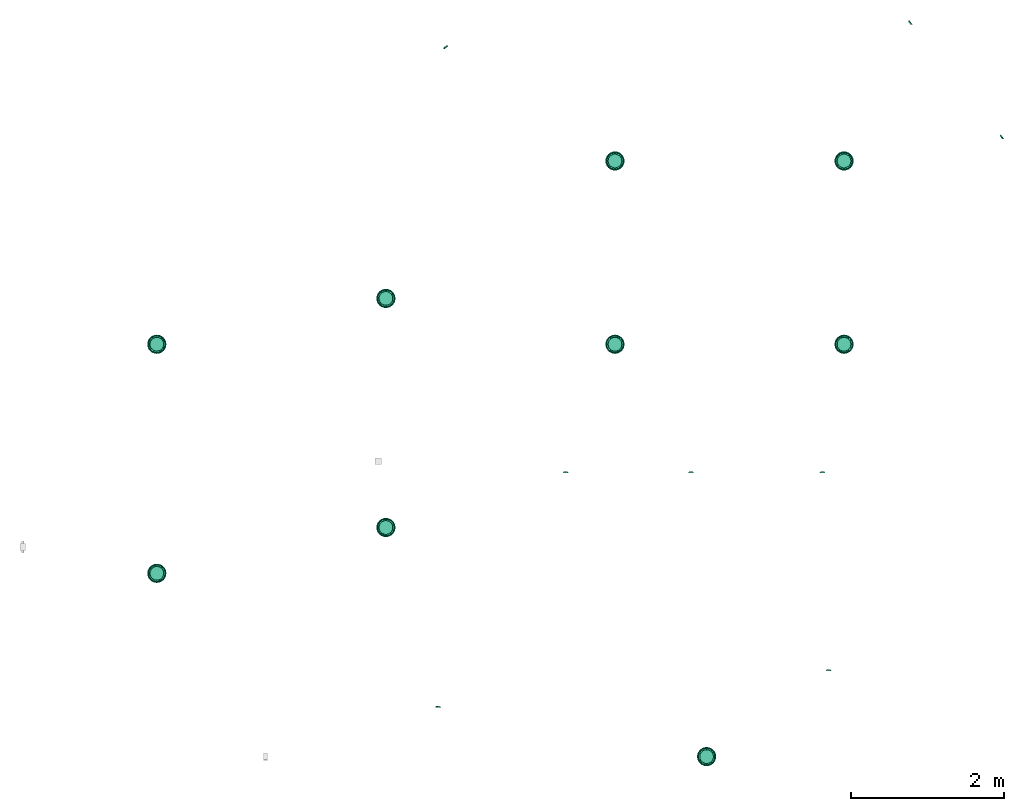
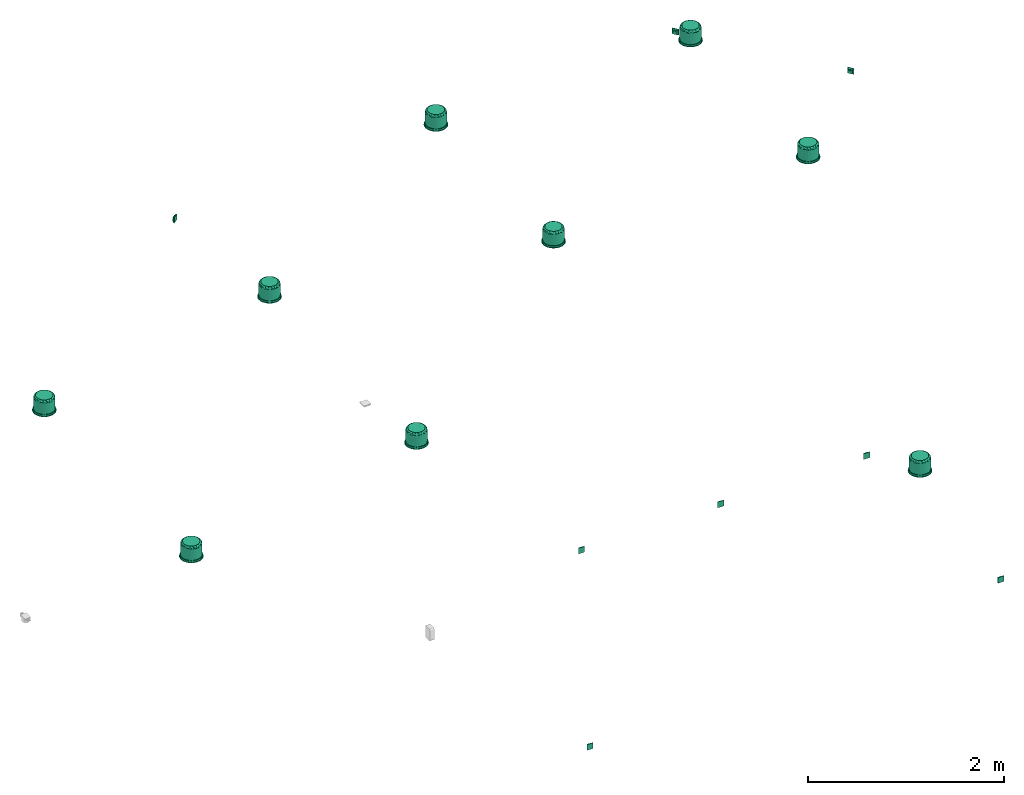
# One storey, part 1 of 3: 17 flow terminals.
"""IFC2X3 building model written with IfcOpenShell, lengths in millimetres."""

import ifcopenshell
import ifcopenshell.guid

model = None  # the IFC model being written
_history = None  # IfcOwnerHistory: only IFC2X3 demands one
_inside = {}  # id of a spatial element -> (the spatial element, [elements in it])
_under = {}  # id of a project, library or spatial element -> (it, [spatial elements below it])
_declared = {}  # id of a project -> (the project, [libraries it declares])
_typed = {}  # id of a type object -> (the type object, [elements of that type])
_made_of = {}  # id of a material, layer set ... -> (it, [elements and type objects made of it])


def new_model(schema):
    """Start an empty IFC model of exactly this schema.

    Asked for "IFC4X3", IfcOpenShell would pick the latest addendum, in which some entities
    have other attributes; the version numbers below select the first issue.
    IFC2X3 requires an IfcOwnerHistory on every rooted entity: one is made here for all.
    """
    global model, _history
    if schema == "IFC4X3":
        model = ifcopenshell.file(schema_version=(4, 3, 0, 0))
    else:
        model = ifcopenshell.file(schema=schema)
    _inside.clear()
    _under.clear()
    _declared.clear()
    _typed.clear()
    _made_of.clear()
    _history = None
    if model.schema == "IFC2X3":
        org = make("IfcOrganization", Name="unknown")
        user = make(
            "IfcPersonAndOrganization",
            ThePerson=make("IfcPerson", FamilyName="unknown"),
            TheOrganization=org,
        )
        app = make(
            "IfcApplication",
            ApplicationDeveloper=org,
            Version="unknown",
            ApplicationFullName="unknown",
            ApplicationIdentifier="unknown",
        )
        _history = make(
            "IfcOwnerHistory",
            OwningUser=user,
            OwningApplication=app,
            ChangeAction="ADDED",
            CreationDate=0,
        )
    return model


def make(cls, **values):
    """One entity of the class cls with the attributes given. An attribute that is None is left unset."""
    return model.create_entity(
        cls, **{name: value for name, value in values.items() if value is not None}
    )


def entity(cls, *values):
    """Any entity or typed value of the class cls, its attributes in the order of the schema. None: left unset."""
    e = model.create_entity(cls)
    for i, value in enumerate(values):
        if value is not None:
            e[i] = value
    return e


def rooted(cls, **values):
    """An entity with a GlobalId (a new one), such as an element, a storey or a relation."""
    return make(cls, GlobalId=ifcopenshell.guid.new(), OwnerHistory=_history, **values)


def si_unit(unit_type, name, prefix=None):
    """IfcSIUnit, for example si_unit("LENGTHUNIT", "METRE", prefix="MILLI")."""
    return make("IfcSIUnit", UnitType=unit_type, Prefix=prefix, Name=name)


def converted_unit(unit_type, name, factor, base, dimensions=None, offset=None):
    """IfcConversionBasedUnit, such as the inch: factor (a typed value) times the base unit."""
    return make(
        "IfcConversionBasedUnit"
        if offset is None
        else "IfcConversionBasedUnitWithOffset",
        ConversionOffset=offset,
        Dimensions=None
        if dimensions is None
        else entity("IfcDimensionalExponents", *dimensions),
        UnitType=unit_type,
        Name=name,
        ConversionFactor=make(
            "IfcMeasureWithUnit", ValueComponent=factor, UnitComponent=base
        ),
    )


def derived_unit(unit_type, elements):
    """IfcDerivedUnit: a product of units, each with its exponent."""
    return make(
        "IfcDerivedUnit",
        Elements=[
            make("IfcDerivedUnitElement", Unit=unit, Exponent=power)
            for unit, power in elements
        ],
        UnitType=unit_type,
    )


def assignment(units):
    """IfcUnitAssignment: the units of a project."""
    return None if units is None else make("IfcUnitAssignment", Units=units)


def point(xyz):
    """IfcCartesianPoint."""
    return None if xyz is None else make("IfcCartesianPoint", Coordinates=xyz)


def direction(xyz):
    """IfcDirection."""
    return None if xyz is None else make("IfcDirection", DirectionRatios=xyz)


def frame(location, z_axis=None, x_axis=None):
    """IfcAxis2Placement3D, a coordinate frame: its origin and axes. An axis left out is left unset."""
    return make(
        "IfcAxis2Placement3D",
        Location=point(location),
        Axis=direction(z_axis),
        RefDirection=direction(x_axis),
    )


def origin_with_axes():
    """The frame at (0, 0, 0) with the z axis (0, 0, 1) and the x axis (1, 0, 0) written out."""
    return frame((0.0, 0.0, 0.0), z_axis=(0.0, 0.0, 1.0), x_axis=(1.0, 0.0, 0.0))


def place(relative_to, where):
    """IfcLocalPlacement: puts the frame where relative to a parent placement (None: the world)."""
    return make(
        "IfcLocalPlacement", PlacementRelTo=relative_to, RelativePlacement=where
    )


def context(
    kind, dimensions, precision=None, world=None, true_north=None, identifier=None
):
    """IfcGeometricRepresentationContext, for example the 3D "Model" context."""
    return make(
        "IfcGeometricRepresentationContext",
        ContextIdentifier=identifier,
        ContextType=kind,
        CoordinateSpaceDimension=dimensions,
        Precision=precision,
        WorldCoordinateSystem=world,
        TrueNorth=true_north,
    )


def subcontext(parent, identifier, kind, view, scale=None):
    """IfcGeometricRepresentationSubContext, for example "Body" below "Model"."""
    return make(
        "IfcGeometricRepresentationSubContext",
        ContextIdentifier=identifier,
        ContextType=kind,
        ParentContext=parent,
        TargetScale=scale,
        TargetView=view,
    )


def project(units=None, contexts=None):
    """IfcProject with its units and contexts."""
    return rooted(
        "IfcProject",
        Name="project",
        RepresentationContexts=contexts,
        UnitsInContext=assignment(units),
    )


def spatial(cls, under=None, at=None, **own):
    """A site, building, storey or space (cls), placed at a placement, below another one or the project."""
    s = rooted(cls, ObjectPlacement=at, **own)
    if under is not None:
        _under.setdefault(under.id(), (under, []))[1].append(s)
    return s


def faces_of(points, faces, orient=None, outer=None):
    """IfcFace entities. A face is a list of loops; a loop is a list of indices into points, from 0.

    orient and outer hold one flag for each loop. By default every Orientation is true, the
    first loop of a face is its IfcFaceOuterBound and the others are IfcFaceBound.
    """
    made = []
    for i, loops in enumerate(faces):
        bounds = []
        for j, loop in enumerate(loops):
            is_outer = j == 0 if outer is None else outer[i][j]
            bounds.append(
                make(
                    "IfcFaceOuterBound" if is_outer else "IfcFaceBound",
                    Bound=make("IfcPolyLoop", Polygon=[points[k] for k in loop]),
                    Orientation=True if orient is None else orient[i][j],
                )
            )
        made.append(make("IfcFace", Bounds=bounds))
    return made


def open_shell(faces, orient=None, outer=None):
    """The faces of one IfcOpenShell. surface_model builds it on its shared points."""
    return ("IfcOpenShell", faces, orient, outer)


def surface_model(cls, points, shells):
    """IfcFaceBasedSurfaceModel or IfcShellBasedSurfaceModel (cls): surfaces that need not close."""
    shared = [point(p) for p in points]
    made = [make(c, CfsFaces=faces_of(shared, fs, o, b)) for c, fs, o, b in shells]
    if cls == "IfcFaceBasedSurfaceModel":
        return make(cls, FbsmFaces=made)
    return make(cls, SbsmBoundary=made)


def shape(context_of_items, identifier, shape_type, items):
    """IfcShapeRepresentation: the items that make up one representation, for example the "Body"."""
    return make(
        "IfcShapeRepresentation",
        ContextOfItems=context_of_items,
        RepresentationIdentifier=identifier,
        RepresentationType=shape_type,
        Items=items,
    )


def source(mapping_origin, context_of_items, identifier, shape_type, items):
    """IfcRepresentationMap: a shape defined once, which mapped items show again and again."""
    return make(
        "IfcRepresentationMap",
        MappingOrigin=mapping_origin,
        MappedRepresentation=shape(context_of_items, identifier, shape_type, items),
    )


def transform(
    local_origin,
    x_axis=None,
    y_axis=None,
    z_axis=None,
    scale=None,
    scale2=None,
    scale3=None,
    uniform=True,
):
    """IfcCartesianTransformationOperator3D, or its non-uniform kind. x_axis, y_axis, z_axis: its Axis1, 2, 3."""
    if uniform:
        return make(
            "IfcCartesianTransformationOperator3D",
            Axis1=direction(x_axis),
            Axis2=direction(y_axis),
            LocalOrigin=point(local_origin),
            Scale=scale,
            Axis3=direction(z_axis),
        )
    return make(
        "IfcCartesianTransformationOperator3DnonUniform",
        Axis1=direction(x_axis),
        Axis2=direction(y_axis),
        LocalOrigin=point(local_origin),
        Scale=scale,
        Axis3=direction(z_axis),
        Scale2=scale2,
        Scale3=scale3,
    )


def mapped(mapping_source, mapping_target):
    """IfcMappedItem: shows the shape of a source again, moved by a transform."""
    return make(
        "IfcMappedItem", MappingSource=mapping_source, MappingTarget=mapping_target
    )


def made_of(thing, what):
    """Note that an element or type object is made of a material, layer set ...; save() writes the relation."""
    if what is not None:
        _made_of.setdefault(what.id(), (what, []))[1].append(thing)
    return thing


def type_object(cls, material=None, **own):
    """A type object (cls), such as IfcWallType, which elements share."""
    return made_of(rooted(cls, **own), material)


def element(
    cls,
    number,
    at=None,
    inside=None,
    cuts=None,
    type_object=None,
    material=None,
    context=None,
    identifier="Body",
    shape_type=None,
    held_by="IfcProductDefinitionShape",
    body=None,
    shapes=None,
    **own,
):
    """One element of the class cls, such as IfcWall. Its Tag is "e" and its number.

    at: its placement. inside: the storey or other place that contains it. cuts: it is an
    opening in that element (IfcRelVoidsElement). A single representation is given by context,
    identifier, shape_type and body (its items); several are given by shapes. held_by: the class
    of the entity that holds the representations. save() writes the other relations.
    """
    e = rooted(cls, Tag="e%d" % number, ObjectPlacement=at, **own)
    if body is not None:
        shapes = [shape(context, identifier, shape_type, body)]
    if shapes is not None:
        e.Representation = make(held_by, Representations=shapes)
    if inside is not None:
        _inside.setdefault(inside.id(), (inside, []))[1].append(e)
    if cuts is not None:
        rooted(
            "IfcRelVoidsElement", RelatingBuildingElement=cuts, RelatedOpeningElement=e
        )
    if type_object is not None:
        _typed.setdefault(type_object.id(), (type_object, []))[1].append(e)
    return made_of(e, material)


def aggregate(whole, parts):
    """IfcRelAggregates: a whole, such as a stair, and the parts it consists of."""
    return rooted("IfcRelAggregates", RelatingObject=whole, RelatedObjects=parts)


def save(model, path):
    """Write the relations noted so far, then the file.

    IfcRelAggregates (storeys below a building ...), IfcRelContainedInSpatialStructure (elements
    in a storey), IfcRelDefinesByType, IfcRelAssociatesMaterial and IfcRelDeclares: one each for
    every whole, place, type object, material and project.
    """
    for whole, parts in _under.values():
        aggregate(whole, parts)
    for where, things in _inside.values():
        rooted(
            "IfcRelContainedInSpatialStructure",
            RelatedElements=things,
            RelatingStructure=where,
        )
    for kind, things in _typed.values():
        rooted("IfcRelDefinesByType", RelatedObjects=things, RelatingType=kind)
    for what, things in _made_of.values():
        rooted("IfcRelAssociatesMaterial", RelatedObjects=things, RelatingMaterial=what)
    for by, libraries in _declared.values():
        rooted("IfcRelDeclares", RelatingContext=by, RelatedDefinitions=libraries)
    model.write(path)


model = new_model("IFC2X3")

# Units and contexts
model_context = context("Model", 3, precision=0.01, world=frame((0.0, 4.29681676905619e-09, 0.0)), true_north=direction((4.01073788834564e-13, 1.0)))
plan_context = context("Plan", 3, precision=0.01, world=frame((0.0, 4.29681676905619e-09, 0.0)), true_north=direction((4.01073788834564e-13, 1.0)))
body_context = subcontext(model_context, "Body", "Model", "MODEL_VIEW")
ifc_project = project(units=[converted_unit("PLANEANGLEUNIT", "DEGREE", entity("IfcPositiveLengthMeasure", 0.0174532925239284), si_unit("PLANEANGLEUNIT", "RADIAN"), dimensions=[0, 0, 0, 0, 0, 0, 0]), si_unit("AREAUNIT", "SQUARE_METRE"), si_unit("LENGTHUNIT", "METRE", prefix="MILLI"), si_unit("MASSUNIT", "GRAM", prefix="KILO"), si_unit("POWERUNIT", "WATT"), si_unit("PRESSUREUNIT", "PASCAL", prefix="KILO"), si_unit("FORCEUNIT", "NEWTON", prefix="KILO"), si_unit("ELECTRICVOLTAGEUNIT", "VOLT"), si_unit("ELECTRICCURRENTUNIT", "AMPERE"), si_unit("THERMODYNAMICTEMPERATUREUNIT", "DEGREE_CELSIUS"), si_unit("TIMEUNIT", "SECOND"), si_unit("VOLUMEUNIT", "CUBIC_METRE"), derived_unit("LINEARVELOCITYUNIT", [(si_unit("LENGTHUNIT", "METRE"), 1), (si_unit("TIMEUNIT", "SECOND"), -1)]), derived_unit("VOLUMETRICFLOWRATEUNIT", [(si_unit("VOLUMEUNIT", "CUBIC_METRE"), 1), (si_unit("TIMEUNIT", "SECOND"), -1)]), derived_unit("THERMALTRANSMITTANCEUNIT", [(si_unit("POWERUNIT", "WATT"), 1), (si_unit("THERMODYNAMICTEMPERATUREUNIT", "KELVIN"), -1), (si_unit("AREAUNIT", "SQUARE_METRE"), -1)]), derived_unit("SOUNDPRESSUREUNIT", [(si_unit("PRESSUREUNIT", "PASCAL"), 1)])], contexts=[model_context, plan_context])

# Site, building, storey
site_placement = place(None, frame((0.0, -4.29681676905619e-09, 0.0), z_axis=(0.0, 0.0, 1.0), x_axis=(1.0, 0.0, 0.0)))
site = spatial("IfcSite", under=ifc_project, at=site_placement, Name="ENGM", CompositionType="ELEMENT")
building_placement = place(site_placement, frame((0.0, 4.29681676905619e-09, 0.0), z_axis=(0.0, 0.0, 1.0), x_axis=(1.0, 0.0, 0.0)))
building = spatial("IfcBuilding", under=site, at=building_placement, Name="TS", CompositionType="ELEMENT")
storey_placement = place(building_placement, frame((0.0, 0.0, 210900.0), z_axis=(0.0, 0.0, 1.0), x_axis=(1.0, 0.0, 0.0)))
storey = spatial("IfcBuildingStorey", under=building, at=storey_placement, Name="Nivå F", CompositionType="ELEMENT", Elevation=210900.0)

# Flow terminals
outlet_type = type_object("IfcOutletType", Name="Datauttak dobbel Vegg - IKT", PredefinedType="COMMUNICATIONSOUTLET")
shared_shape_1 = source(origin_with_axes(), body_context, "Body", "SurfaceModel", [
    surface_model("IfcShellBasedSurfaceModel", [(35.5, 5.05547, 35.5832), (25.5, 20.05547, 25.5832), (-35.5, 5.05547, 35.5832), (-25.5, 20.05547, 25.5832), (-35.5, 4.94453, 35.41679), (-25.5, 19.94453, 25.41679), (25.5, 19.94453, 25.41679), (35.5, 4.94453, 35.41679), (35.5, 4.94453, -35.41679), (25.5, 19.94453, -25.41679), (-35.5, 4.94453, -35.41679), (-25.5, 19.94453, -25.41679), (-35.5, 5.05547, -35.5832), (-25.5, 20.05547, -25.5832), (25.5, 20.05547, -25.5832), (35.5, 5.05547, -35.5832), (-25.5832, 20.05547, -25.5), (-35.5832, 5.05547, -35.5), (-35.5832, 5.05547, 35.5), (-25.5832, 20.05547, 25.5), (-25.41679, 19.94453, 25.5), (-35.41679, 4.94453, 35.5), (-25.41679, 19.94453, -25.5), (-35.41679, 4.94453, -35.5), (25.41679, 19.94453, -25.5), (35.41679, 4.94453, -35.5), (35.41679, 4.94453, 35.5), (25.41679, 19.94453, 25.5), (25.5832, 20.05547, 25.5), (35.5832, 5.05547, 35.5), (25.5832, 20.05547, -25.5), (35.5832, 5.05547, -35.5), (35.4, 5.0, -35.5), (35.4, 0.0, -35.5), (35.4, 0.0, 35.5), (35.4, 5.0, 35.5), (35.6, 5.0, 35.5), (35.6, 0.0, 35.5), (35.6, 0.0, -35.5), (35.6, 5.0, -35.5), (-35.5, 0.0, -35.6), (-35.5, 5.0, -35.6), (35.5, 5.0, -35.6), (35.5, 0.0, -35.6), (35.5, 0.0, -35.4), (35.5, 5.0, -35.4), (-35.5, 5.0, -35.4), (-35.5, 0.0, -35.4), (-35.6, 5.0, -35.5), (-35.6, 0.0, -35.5), (-35.6, 0.0, 35.5), (-35.6, 5.0, 35.5), (-35.4, 5.0, 35.5), (-35.4, 0.0, 35.5), (-35.4, 0.0, -35.5), (-35.4, 5.0, -35.5), (-35.5, -0.1, -35.5), (35.5, -0.1, -35.5), (35.5, -0.1, 35.5), (-35.5, -0.1, 35.5), (-35.5, 0.1, 35.5), (35.5, 0.1, 35.5), (35.5, 0.1, -35.5), (-35.5, 0.1, -35.5), (-35.5, 0.0, 35.4), (-35.5, 5.0, 35.4), (35.5, 5.0, 35.4), (35.5, 0.0, 35.4), (35.5, 0.0, 35.6), (35.5, 5.0, 35.6), (-35.5, 5.0, 35.6), (-35.5, 0.0, 35.6), (-25.5, 19.9, -25.5), (25.5, 19.9, -25.5), (25.5, 19.9, 25.5), (-25.5, 19.9, 25.5), (-25.5, 20.1, 25.5), (25.5, 20.1, 25.5), (25.5, 20.1, -25.5), (-25.5, 20.1, -25.5), (-25.5, 22.0, 25.5), (-25.5, 20.0, 25.5), (25.5, 20.0, 25.5), (25.5, 22.0, 25.5), (25.5, 22.0, 20.5), (25.5, 20.0, 20.5), (-25.5, 20.0, 20.5), (-25.5, 22.0, 20.5), (-25.5, 22.0, 10.5), (-25.5, 20.0, 10.5), (25.5, 20.0, 10.5), (25.5, 22.0, 10.5), (25.5, 22.0, -25.5), (25.5, 20.0, -25.5), (-25.5, 20.0, -25.5), (-25.5, 22.0, -25.5), (-17.5, 21.91, -6.5), (-2.5, 21.91, -6.5), (-17.5, 21.91, 8.5), (-2.5, 21.91, 8.5), (-17.5, 22.11, 8.5), (-2.5, 22.11, 8.5), (-17.5, 22.11, -6.5), (-2.5, 22.11, -6.5), (2.5, 21.91, -6.5), (17.5, 21.91, -6.5), (17.5, 21.91, 8.5), (2.5, 21.91, 8.5), (2.5, 22.11, 8.5), (17.5, 22.11, 8.5), (2.5, 22.11, -6.5), (17.5, 22.11, -6.5)], [open_shell([[[0, 1, 2]], [[3, 2, 1]], [[4, 5, 6]], [[6, 7, 4]], [[3, 1, 6]], [[6, 5, 3]], [[2, 3, 4]], [[5, 4, 3]], [[0, 2, 7]], [[4, 7, 2]], [[1, 0, 6]], [[7, 6, 0]], [[8, 9, 10]], [[11, 10, 9]], [[12, 13, 14]], [[14, 15, 12]], [[11, 9, 14]], [[14, 13, 11]], [[10, 11, 12]], [[13, 12, 11]], [[8, 10, 12]], [[12, 15, 8]], [[9, 8, 14]], [[15, 14, 8]], [[16, 17, 18]], [[18, 19, 16]], [[20, 21, 22]], [[23, 22, 21]], [[18, 17, 23]], [[23, 21, 18]], [[19, 18, 20]], [[21, 20, 18]], [[16, 19, 20]], [[20, 22, 16]], [[17, 16, 22]], [[22, 23, 17]], [[24, 25, 26]], [[26, 27, 24]], [[28, 29, 30]], [[31, 30, 29]], [[26, 25, 31]], [[31, 29, 26]], [[27, 26, 28]], [[29, 28, 26]], [[24, 27, 28]], [[28, 30, 24]], [[25, 24, 30]], [[30, 31, 25]], [[32, 33, 34]], [[34, 35, 32]], [[36, 37, 38]], [[38, 39, 36]], [[34, 33, 38]], [[38, 37, 34]], [[35, 34, 37]], [[37, 36, 35]], [[32, 35, 36]], [[36, 39, 32]], [[33, 32, 39]], [[39, 38, 33]], [[40, 41, 42]], [[42, 43, 40]], [[44, 45, 46]], [[46, 47, 44]], [[42, 41, 46]], [[46, 45, 42]], [[43, 42, 45]], [[45, 44, 43]], [[40, 43, 44]], [[44, 47, 40]], [[41, 40, 47]], [[47, 46, 41]], [[48, 49, 50]], [[50, 51, 48]], [[52, 53, 54]], [[54, 55, 52]], [[50, 49, 54]], [[54, 53, 50]], [[51, 50, 53]], [[53, 52, 51]], [[48, 51, 52]], [[52, 55, 48]], [[49, 48, 55]], [[55, 54, 49]], [[56, 57, 58]], [[58, 59, 56]], [[60, 61, 62]], [[62, 63, 60]], [[58, 57, 62]], [[62, 61, 58]], [[59, 58, 61]], [[61, 60, 59]], [[56, 59, 60]], [[60, 63, 56]], [[57, 56, 63]], [[63, 62, 57]], [[64, 65, 66]], [[66, 67, 64]], [[68, 69, 70]], [[70, 71, 68]], [[66, 65, 70]], [[70, 69, 66]], [[67, 66, 69]], [[69, 68, 67]], [[64, 67, 68]], [[68, 71, 64]], [[65, 64, 71]], [[71, 70, 65]], [[72, 73, 74]], [[74, 75, 72]], [[76, 77, 78]], [[78, 79, 76]], [[74, 73, 78]], [[78, 77, 74]], [[75, 74, 77]], [[77, 76, 75]], [[72, 75, 76]], [[76, 79, 72]], [[73, 72, 79]], [[79, 78, 73]], [[80, 81, 82]], [[82, 83, 80]], [[84, 85, 86]], [[86, 87, 84]], [[82, 81, 86]], [[86, 85, 82]], [[83, 82, 85]], [[85, 84, 83]], [[80, 83, 84]], [[84, 87, 80]], [[81, 80, 87]], [[87, 86, 81]], [[88, 89, 90]], [[90, 91, 88]], [[92, 93, 94]], [[94, 95, 92]], [[90, 89, 94]], [[94, 93, 90]], [[91, 90, 93]], [[93, 92, 91]], [[88, 91, 92]], [[92, 95, 88]], [[89, 88, 95]], [[95, 94, 89]], [[96, 97, 98]], [[99, 98, 97]], [[100, 101, 102]], [[103, 102, 101]], [[99, 97, 103]], [[103, 101, 99]], [[98, 99, 101]], [[101, 100, 98]], [[96, 98, 100]], [[100, 102, 96]], [[97, 96, 102]], [[102, 103, 97]], [[104, 105, 106]], [[106, 107, 104]], [[108, 109, 110]], [[111, 110, 109]], [[106, 105, 111]], [[111, 109, 106]], [[107, 106, 109]], [[109, 108, 107]], [[104, 107, 108]], [[108, 110, 104]], [[105, 104, 110]], [[110, 111, 105]]])]),
])
for number, where, z_axis, x_axis, name in (
    (1, (721697.22875, 444878.95965, 1500.0), (0.0, 0.0, 1.0), (0.792353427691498, 0.610062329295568, 0.0), "Datauttak dobbel Vegg - IKT"),
    (2, (727781.89991, 445214.43697, 1500.0), (0.0, 0.0, 1.0), (-0.597393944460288, 0.801947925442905, 0.0), "Datauttak dobbel Vegg - IKT"),
    (3, (728982.24849, 443715.9166, 1500.0), (0.0, 0.0, 1.0), (-0.597393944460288, 0.801947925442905, 0.0), "Datauttak dobbel Vegg - IKT"),
    (4, (721592.54863, 436237.52155, 200.0), (0.0, 0.0, 1.0), (0.999984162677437, -0.00562800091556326, 0.0), "Datauttak dobbel Vegg - IKT"),
    (5, (726708.37082, 436714.53523, 200.0), (0.0, 0.0, 1.0), (0.999984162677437, -0.00562800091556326, 0.0), "Datauttak dobbel Vegg - IKT"),
    (6, (723263.8536, 439307.71385, 200.0), (0.0, 0.0, 1.0), (0.999984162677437, -0.00562800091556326, 0.0), "Datauttak dobbel Vegg - IKT"),
    (7, (724903.8536, 439307.71385, 200.0), (0.0, 0.0, 1.0), (0.999984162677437, -0.00562800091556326, 0.0), "Datauttak dobbel Vegg - IKT"),
    (8, (726623.8536, 439307.71385, 200.0), (0.0, 0.0, 1.0), (0.999984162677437, -0.00562800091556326, 0.0), "Datauttak dobbel Vegg - IKT"),
):
    element("IfcFlowTerminal", number, at=place(storey_placement, frame(where, z_axis=z_axis, x_axis=x_axis)), inside=storey, type_object=outlet_type, Name=name, context=body_context, shape_type="MappedRepresentation", body=[
        mapped(shared_shape_1, transform((0.0, 0.0, 0.0), scale=1.0)),
    ])
electric_appliance_type = type_object("IfcElectricApplianceType", Name="Høyttaler innfelt", PredefinedType="NOTDEFINED")
shared_shape_2 = source(origin_with_axes(), body_context, "Body", "SurfaceModel", [
    surface_model("IfcShellBasedSurfaceModel", [(-68.944, 57.85088, 184.0), (-58.59195, 79.97902, 179.50754), (-80.0329, 55.28406, 180.76938), (-78.29994, 75.83774, 166.88554), (-50.40099, 96.24365, 167.73947), (-65.24416, 89.80089, 159.0), (-45.0, 77.94229, 184.0), (104.29833, 0.0, 174.69059), (98.55658, 30.89802, 175.83351), (97.14917, 0.0, 179.3453), (-98.55658, 30.89802, 175.83351), (-104.29833, 0.0, 174.69059), (-97.14917, 0.0, 179.3453), (93.09772, 49.71788, 173.10261), (104.32878, 23.10743, 171.13623), (97.92626, 46.3605, 168.38431), (-15.62834, 88.6327, 184.0), (-30.79138, 92.23996, 180.78615), (-104.32878, 23.10743, 171.13623), (55.89313, 88.54638, 174.18746), (30.93861, 99.42219, 174.89528), (58.59195, 79.97902, 179.50754), (-97.92626, 46.3605, 168.38431), (-93.09772, 49.71788, 173.10261), (-61.47959, 85.0435, 173.90083), (-30.93861, 99.42219, 174.89528), (45.0, 77.94229, 184.0), (68.944, 57.85088, 184.0), (-84.57234, 30.78181, 184.0), (-92.49153, 28.27678, 181.10339), (-89.80089, 65.24416, 159.0), (17.39577, 107.47851, 167.19599), (34.30089, 105.56728, 159.0), (0.0, 111.0, 159.0), (-34.30089, 105.56728, 159.0), (-17.39574, 107.47094, 167.21376), (30.79138, 92.23996, 180.78615), (0.0, 99.14465, 179.50754), (15.62834, 88.6327, 184.0), (-81.90835, 64.40302, 174.81219), (0.05017, 105.30857, 173.41796), (80.0329, 55.28406, 180.76938), (84.57234, 30.78181, 184.0), (90.0, 0.0, 184.0), (92.49153, 28.27678, 181.10339), (50.40099, 96.24365, 167.73947), (89.80089, 65.24416, 159.0), (105.56728, 34.30089, 159.0), (65.24416, 89.80089, 159.0), (-105.56728, 34.30089, 159.0), (78.29994, 75.83774, 166.88554), (105.52114, 29.61929, 165.29825), (90.11049, 46.65977, 177.6147), (-90.11049, 46.65977, 177.6147), (-107.8502, 0.0, 166.3746), (-105.52114, 29.61929, 165.29825), (-90.0, 0.0, 184.0), (81.90835, 64.40302, 174.81219), (-111.0, 0.0, 159.0), (111.0, 0.0, 159.0), (107.8502, 0.0, 166.3746), (68.944, -57.85088, 184.0), (58.59195, -79.97902, 179.50754), (80.0329, -55.28406, 180.76938), (78.29994, -75.83774, 166.88554), (50.40099, -96.24365, 167.73947), (65.24416, -89.80089, 159.0), (45.0, -77.94229, 184.0), (-98.55658, -30.89802, 175.83351), (98.55658, -30.89802, 175.83351), (-93.09772, -49.71788, 173.10261), (-104.32878, -23.10743, 171.13623), (-97.92626, -46.3605, 168.38431), (15.62834, -88.6327, 184.0), (30.79138, -92.23996, 180.78615), (104.32878, -23.10743, 171.13623), (-55.89313, -88.54638, 174.18746), (-30.93861, -99.42219, 174.89528), (-58.59195, -79.97902, 179.50754), (97.92626, -46.3605, 168.38431), (93.09772, -49.71788, 173.10261), (61.47959, -85.0435, 173.90083), (30.93861, -99.42219, 174.89528), (-45.0, -77.94229, 184.0), (-68.944, -57.85088, 184.0), (84.57234, -30.78181, 184.0), (92.49153, -28.27678, 181.10339), (89.80089, -65.24416, 159.0), (-17.39577, -107.47851, 167.19599), (-34.30089, -105.56728, 159.0), (0.0, -111.0, 159.0), (34.30089, -105.56728, 159.0), (17.39574, -107.47094, 167.21376), (81.90835, -64.40302, 174.81219), (-30.79138, -92.23996, 180.78615), (-15.62834, -88.6327, 184.0), (0.0, -99.14465, 179.50754), (-0.05017, -105.30857, 173.41796), (-80.0329, -55.28406, 180.76938), (-84.57234, -30.78181, 184.0), (-92.49153, -28.27678, 181.10339), (-50.40099, -96.24365, 167.73947), (-89.80089, -65.24416, 159.0), (-105.56728, -34.30089, 159.0), (-65.24416, -89.80089, 159.0), (-78.29994, -75.83774, 166.88554), (-90.11049, -46.65977, 177.6147), (-105.52114, -29.61929, 165.29825), (105.56728, -34.30089, 159.0), (90.11049, -46.65977, 177.6147), (105.52114, -29.61929, 165.29825), (-81.90835, -64.40302, 174.81219), (0.0, 0.0, 159.0), (0.0, 0.0, 184.0), (96.12882, -55.5, 159.0), (28.72892, -107.21777, 159.0), (55.5, -96.12882, 159.0), (78.48885, -78.48885, 159.0), (107.21777, -28.72892, 159.0), (-78.48885, -78.48885, 159.0), (-96.12882, 55.5, 159.0), (-55.5, -96.12882, 159.0), (-28.72892, -107.21777, 159.0), (-96.12882, -55.5, 159.0), (-107.21777, -28.72892, 159.0), (107.21777, 28.72892, 159.0), (55.5, 96.12882, 159.0), (96.12882, 55.5, 159.0), (78.48885, 78.48885, 159.0), (28.72892, 107.21777, 159.0), (-28.72892, 107.21777, 159.0), (-107.21777, 28.72892, 159.0), (-78.48885, 78.48885, 159.0), (-55.5, 96.12882, 159.0), (28.72892, 107.21777, 20.0), (-28.72892, 107.21777, 20.0), (0.0, 111.0, 20.0), (96.12882, 55.5, 20.0), (55.5, 96.12882, 20.0), (107.21777, 28.72892, 20.0), (78.48885, 78.48885, 20.0), (-96.12882, 55.5, 20.0), (-78.48885, 78.48885, 20.0), (-55.5, 96.12882, 20.0), (-107.21777, 28.72892, 20.0), (-96.12882, -55.5, 20.0), (-111.0, 0.0, 20.0), (-78.48885, -78.48885, 20.0), (111.0, 0.0, 20.0), (107.21777, -28.72892, 20.0), (96.12882, -55.5, 20.0), (28.72892, -107.21777, 20.0), (55.5, -96.12882, 20.0), (78.48885, -78.48885, 20.0), (-107.21777, -28.72892, 20.0), (-55.5, -96.12882, 20.0), (0.0, -111.0, 20.0), (-28.72892, -107.21777, 20.0), (0.0, -118.0, 20.0), (30.54065, -113.97924, 20.0), (59.0, -102.191, 20.0), (83.4386, -83.4386, 20.0), (102.191, -59.0, 20.0), (113.97924, -30.54065, 20.0), (118.0, 0.0, 20.0), (-30.54065, -113.97924, 20.0), (-83.4386, -83.4386, 20.0), (-59.0, -102.191, 20.0), (-118.0, 0.0, 20.0), (-102.191, -59.0, 20.0), (-113.97924, -30.54065, 20.0), (113.97924, 30.54065, 20.0), (102.191, 59.0, 20.0), (83.4386, 83.4386, 20.0), (59.0, 102.191, 20.0), (30.54065, 113.97924, 20.0), (0.0, 118.0, 20.0), (-30.54065, 113.97924, 20.0), (-102.191, 59.0, 20.0), (-113.97924, 30.54065, 20.0), (-83.4386, 83.4386, 20.0), (-59.0, 102.191, 20.0), (0.0, 118.0, 0.0), (30.54065, 113.97924, 0.0), (59.0, 102.191, 0.0), (-83.4386, 83.4386, 0.0), (83.4386, 83.4386, 0.0), (102.191, 59.0, 0.0), (113.97924, 30.54065, 0.0), (-118.0, 0.0, 0.0), (-113.97924, -30.54065, 0.0), (-30.54065, 113.97924, 0.0), (-59.0, 102.191, 0.0), (-102.191, 59.0, 0.0), (-113.97924, 30.54065, 0.0), (118.0, 0.0, 0.0), (113.97924, -30.54065, 0.0), (102.191, -59.0, 0.0), (83.4386, -83.4386, 0.0), (59.0, -102.191, 0.0), (30.54065, -113.97924, 0.0), (-83.4386, -83.4386, 0.0), (-102.191, -59.0, 0.0), (-30.54065, -113.97924, 0.0), (-59.0, -102.191, 0.0), (0.0, -118.0, 0.0), (-32.35238, 120.74073, 0.0), (-62.5, 108.25318, 0.0), (-88.38835, 88.38835, 0.0), (-108.25318, 62.5, 0.0), (-120.74073, 32.35238, 0.0), (62.5, 108.25318, 0.0), (-125.0, 0.0, 0.0), (0.0, 125.0, 0.0), (32.35238, 120.74073, 0.0), (88.38835, 88.38835, 0.0), (120.74073, 32.35238, 0.0), (108.25318, 62.5, 0.0), (-120.74073, -32.35238, 0.0), (125.0, 0.0, 0.0), (-108.25318, -62.5, 0.0), (-32.35238, -120.74073, 0.0), (-88.38835, -88.38835, 0.0), (-62.5, -108.25318, 0.0), (0.0, -125.0, 0.0), (120.74073, -32.35238, 0.0), (88.38835, -88.38835, 0.0), (108.25318, -62.5, 0.0), (32.35238, -120.74073, 0.0), (62.5, -108.25318, 0.0), (-32.35238, -120.74073, -3.0), (88.38835, -88.38835, -3.0), (0.0, -125.0, -3.0), (-88.38835, -88.38835, -3.0), (-62.5, -108.25318, -3.0), (-108.25318, -62.5, -3.0), (-120.74073, -32.35238, -3.0), (88.38835, 88.38835, -3.0), (32.35238, -120.74073, -3.0), (62.5, -108.25318, -3.0), (120.74073, -32.35238, -3.0), (108.25318, -62.5, -3.0), (125.0, 0.0, -3.0), (-125.0, 0.0, -3.0), (-120.74073, 32.35238, -3.0), (-32.35238, 120.74073, -3.0), (-108.25318, 62.5, -3.0), (-88.38835, 88.38835, -3.0), (-62.5, 108.25318, -3.0), (120.74073, 32.35238, -3.0), (108.25318, 62.5, -3.0), (62.5, 108.25318, -3.0), (0.0, 125.0, -3.0), (32.35238, 120.74073, -3.0), (-84.57234, 30.78181, -6.0), (-102.5, 0.0, -5.0), (-96.31849, 35.05706, -5.0), (-45.0, 77.94229, -6.0), (-78.51955, 65.88573, -5.0), (-51.25, 88.7676, -5.0), (-68.944, 57.85088, -6.0), (-17.79894, 100.94279, -5.0), (-15.62834, 88.6327, -6.0), (-90.0, 0.0, -6.0), (15.62834, 88.6327, -6.0), (45.0, 77.94229, -6.0), (17.79894, 100.94279, -5.0), (51.25, 88.7676, -5.0), (96.31849, 35.05706, -5.0), (102.5, 0.0, -5.0), (90.0, 0.0, -6.0), (78.51955, 65.88573, -5.0), (68.944, 57.85088, -6.0), (84.57234, 30.78181, -6.0), (84.57234, -30.78181, -6.0), (96.31849, -35.05706, -5.0), (45.0, -77.94229, -6.0), (78.51955, -65.88573, -5.0), (51.25, -88.7676, -5.0), (68.944, -57.85088, -6.0), (17.79894, -100.94279, -5.0), (15.62834, -88.6327, -6.0), (-15.62834, -88.6327, -6.0), (-45.0, -77.94229, -6.0), (-17.79894, -100.94279, -5.0), (-51.25, -88.7676, -5.0), (-84.57234, -30.78181, -6.0), (-78.51955, -65.88573, -5.0), (-96.31849, -35.05706, -5.0), (-68.944, -57.85088, -6.0), (0.0, 0.0, -6.0), (106.99386, 34.76441, -3.0), (0.0, 0.0, -3.0), (112.5, 0.0, -3.0), (91.01441, 66.12584, -3.0), (66.12584, 91.01441, -3.0), (34.76441, 106.99386, -3.0), (0.0, 112.5, -3.0), (-91.01441, 66.12584, -3.0), (-106.99386, 34.76441, -3.0), (-66.12584, 91.01441, -3.0), (-34.76441, 106.99386, -3.0), (-112.5, 0.0, -3.0), (66.12584, -91.01441, -3.0), (91.01441, -66.12584, -3.0), (34.76441, -106.99386, -3.0), (106.99386, -34.76441, -3.0), (0.0, -112.5, -3.0), (-66.12584, -91.01441, -3.0), (-34.76441, -106.99386, -3.0), (-91.01441, -66.12584, -3.0), (-106.99386, -34.76441, -3.0)], [open_shell([[[0, 1, 2]], [[3, 4, 5]], [[0, 6, 1]], [[7, 8, 9]], [[10, 11, 12]], [[13, 14, 15]], [[7, 14, 8]], [[6, 16, 17]], [[18, 11, 10]], [[19, 20, 21]], [[22, 23, 3]], [[24, 25, 4]], [[26, 27, 21]], [[28, 2, 29]], [[3, 5, 30]], [[31, 32, 33]], [[33, 34, 35]], [[36, 37, 38]], [[4, 35, 34]], [[1, 24, 39]], [[26, 36, 38]], [[17, 37, 25]], [[20, 31, 40]], [[21, 20, 36]], [[41, 21, 27]], [[41, 27, 42]], [[0, 2, 28]], [[43, 9, 44]], [[20, 19, 45]], [[46, 15, 47]], [[17, 1, 6]], [[31, 20, 45]], [[48, 32, 45]], [[30, 49, 22]], [[34, 5, 4]], [[15, 46, 50]], [[14, 51, 15]], [[48, 50, 46]], [[33, 35, 31]], [[8, 13, 52]], [[2, 39, 53]], [[37, 16, 38]], [[54, 18, 55]], [[28, 29, 56]], [[45, 19, 50]], [[37, 17, 16]], [[1, 17, 25]], [[21, 36, 26]], [[37, 36, 20]], [[1, 39, 2]], [[23, 53, 39]], [[44, 41, 42]], [[57, 21, 41]], [[10, 12, 29]], [[22, 18, 23]], [[13, 8, 14]], [[52, 41, 44]], [[4, 25, 35]], [[25, 37, 40]], [[31, 35, 40]], [[45, 32, 31]], [[22, 3, 30]], [[3, 39, 24]], [[45, 50, 48]], [[50, 57, 13]], [[58, 54, 55]], [[23, 18, 10]], [[59, 47, 51]], [[56, 29, 12]], [[43, 44, 42]], [[8, 44, 9]], [[25, 40, 35]], [[20, 40, 37]], [[25, 24, 1]], [[3, 24, 4]], [[21, 57, 19]], [[50, 19, 57]], [[53, 23, 10]], [[3, 23, 39]], [[10, 29, 53]], [[2, 53, 29]], [[50, 13, 15]], [[52, 13, 57]], [[41, 52, 57]], [[44, 8, 52]], [[55, 18, 22]], [[54, 11, 18]], [[22, 49, 55]], [[55, 49, 58]], [[7, 60, 14]], [[60, 59, 51]], [[60, 51, 14]], [[47, 15, 51]], [[61, 62, 63]], [[64, 65, 66]], [[61, 67, 62]], [[11, 68, 12]], [[69, 7, 9]], [[70, 71, 72]], [[11, 71, 68]], [[67, 73, 74]], [[75, 7, 69]], [[76, 77, 78]], [[79, 80, 64]], [[81, 82, 65]], [[83, 84, 78]], [[85, 63, 86]], [[64, 66, 87]], [[88, 89, 90]], [[90, 91, 92]], [[91, 66, 65]], [[65, 92, 91]], [[62, 81, 93]], [[83, 94, 95]], [[74, 96, 82]], [[77, 88, 97]], [[78, 77, 94]], [[98, 78, 84]], [[98, 84, 99]], [[61, 63, 85]], [[56, 12, 100]], [[77, 76, 101]], [[102, 72, 103]], [[104, 105, 102]], [[88, 77, 101]], [[104, 89, 101]], [[68, 70, 106]], [[74, 62, 67]], [[72, 102, 105]], [[71, 107, 72]], [[87, 108, 79]], [[90, 92, 88]], [[94, 96, 95]], [[63, 93, 109]], [[96, 73, 95]], [[60, 75, 110]], [[85, 86, 43]], [[101, 76, 105]], [[96, 74, 73]], [[62, 74, 82]], [[78, 94, 83]], [[96, 94, 77]], [[62, 93, 63]], [[80, 109, 93]], [[100, 98, 99]], [[111, 78, 98]], [[69, 9, 86]], [[79, 75, 80]], [[70, 68, 71]], [[106, 98, 100]], [[65, 82, 92]], [[82, 96, 97]], [[88, 92, 97]], [[101, 89, 88]], [[79, 64, 87]], [[64, 93, 81]], [[101, 105, 104]], [[105, 111, 70]], [[59, 60, 110]], [[80, 75, 69]], [[58, 103, 107]], [[43, 86, 9]], [[56, 100, 99]], [[68, 100, 12]], [[82, 97, 92]], [[77, 97, 96]], [[82, 81, 62]], [[64, 81, 65]], [[78, 111, 76]], [[105, 76, 111]], [[109, 80, 69]], [[64, 80, 93]], [[69, 86, 109]], [[63, 109, 86]], [[105, 70, 72]], [[106, 70, 111]], [[98, 106, 111]], [[100, 68, 106]], [[110, 75, 79]], [[60, 7, 75]], [[79, 108, 110]], [[110, 108, 59]], [[11, 54, 71]], [[54, 58, 107]], [[54, 107, 71]], [[103, 72, 107]], [[59, 112, 47]], [[47, 112, 46]], [[112, 48, 46]], [[48, 112, 32]], [[112, 33, 32]], [[112, 49, 30]], [[30, 5, 112]], [[34, 33, 112]], [[112, 5, 34]], [[112, 58, 49]], [[112, 87, 66]], [[112, 66, 91]], [[112, 108, 87]], [[59, 108, 112]], [[91, 90, 112]], [[112, 89, 104]], [[112, 104, 102]], [[112, 103, 58]], [[103, 112, 102]], [[89, 112, 90]], [[27, 113, 42]], [[26, 113, 27]], [[113, 26, 38]], [[113, 43, 42]], [[28, 56, 113]], [[0, 28, 113]], [[16, 6, 113]], [[0, 113, 6]], [[38, 16, 113]], [[67, 61, 113]], [[61, 85, 113]], [[113, 85, 43]], [[73, 67, 113]], [[83, 95, 113]], [[84, 83, 113]], [[56, 99, 113]], [[84, 113, 99]], [[73, 113, 95]], [[114, 115, 116]], [[114, 116, 117]], [[114, 118, 59]], [[114, 59, 115]], [[119, 115, 120]], [[90, 121, 122]], [[90, 115, 121]], [[123, 58, 124]], [[121, 115, 119]], [[123, 119, 58]], [[125, 115, 59]], [[126, 125, 127]], [[126, 127, 128]], [[125, 129, 120]], [[129, 125, 126]], [[130, 129, 33]], [[119, 131, 58]], [[120, 131, 119]], [[132, 130, 133]], [[130, 132, 120]], [[129, 130, 120]], [[120, 115, 125]], [[134, 135, 136]], [[137, 134, 138]], [[137, 139, 134]], [[137, 138, 140]], [[141, 134, 139]], [[135, 142, 143]], [[142, 135, 141]], [[144, 145, 146]], [[141, 135, 134]], [[144, 141, 145]], [[141, 139, 147]], [[148, 149, 150]], [[150, 151, 139]], [[152, 151, 150]], [[152, 150, 153]], [[139, 151, 147]], [[146, 145, 154]], [[147, 145, 141]], [[155, 156, 157]], [[155, 147, 151]], [[156, 155, 151]], [[139, 148, 150]], [[124, 154, 145]], [[147, 123, 145]], [[121, 155, 157]], [[147, 155, 119]], [[122, 157, 156]], [[154, 58, 146]], [[154, 124, 58]], [[145, 123, 124]], [[147, 119, 123]], [[121, 119, 155]], [[157, 122, 121]], [[156, 90, 122]], [[115, 151, 152]], [[153, 116, 152]], [[114, 150, 149]], [[153, 150, 117]], [[118, 149, 148]], [[151, 115, 90]], [[152, 116, 115]], [[153, 117, 116]], [[150, 114, 117]], [[118, 114, 149]], [[148, 59, 118]], [[151, 90, 156]], [[125, 148, 139]], [[127, 139, 137]], [[126, 138, 134]], [[129, 134, 136]], [[139, 127, 125]], [[125, 59, 148]], [[140, 128, 127]], [[140, 138, 128]], [[128, 138, 126]], [[134, 129, 126]], [[140, 127, 137]], [[136, 33, 129]], [[130, 135, 143]], [[142, 133, 143]], [[120, 141, 144]], [[142, 141, 132]], [[131, 144, 146]], [[135, 130, 33]], [[143, 133, 130]], [[142, 132, 133]], [[141, 120, 132]], [[131, 120, 144]], [[146, 58, 131]], [[135, 33, 136]], [[158, 159, 160]], [[161, 158, 160]], [[162, 163, 164]], [[158, 161, 162]], [[158, 162, 164]], [[165, 166, 167]], [[166, 165, 158]], [[164, 166, 158]], [[166, 168, 169]], [[169, 168, 170]], [[168, 166, 164]], [[171, 172, 173]], [[168, 171, 173]], [[174, 175, 176]], [[168, 173, 174]], [[177, 174, 176]], [[168, 178, 179]], [[178, 168, 177]], [[180, 177, 181]], [[177, 180, 178]], [[168, 174, 177]], [[171, 168, 164]], [[182, 183, 184]], [[185, 182, 184]], [[186, 187, 188]], [[189, 184, 186]], [[190, 189, 186]], [[191, 185, 192]], [[191, 182, 185]], [[193, 189, 194]], [[185, 184, 193]], [[184, 189, 193]], [[186, 188, 190]], [[195, 196, 197]], [[197, 198, 188]], [[190, 198, 199]], [[198, 190, 188]], [[200, 190, 199]], [[200, 201, 202]], [[202, 190, 200]], [[201, 203, 204]], [[203, 201, 205]], [[205, 201, 200]], [[188, 195, 197]], [[190, 170, 189]], [[202, 169, 190]], [[167, 201, 204]], [[202, 201, 166]], [[165, 204, 203]], [[190, 169, 170]], [[170, 168, 189]], [[165, 167, 204]], [[166, 201, 167]], [[166, 169, 202]], [[158, 165, 203]], [[203, 205, 158]], [[200, 159, 205]], [[199, 160, 200]], [[162, 198, 197]], [[199, 198, 161]], [[163, 197, 196]], [[199, 161, 160]], [[160, 159, 200]], [[164, 163, 196]], [[162, 197, 163]], [[162, 161, 198]], [[195, 164, 196]], [[205, 159, 158]], [[188, 171, 195]], [[187, 172, 188]], [[174, 186, 184]], [[187, 186, 173]], [[175, 184, 183]], [[188, 172, 171]], [[171, 164, 195]], [[175, 174, 184]], [[173, 186, 174]], [[173, 172, 187]], [[176, 175, 183]], [[183, 182, 176]], [[191, 177, 182]], [[192, 181, 191]], [[179, 194, 189]], [[185, 180, 192]], [[192, 180, 181]], [[181, 177, 191]], [[193, 178, 180]], [[193, 194, 178]], [[178, 194, 179]], [[189, 168, 179]], [[193, 180, 185]], [[182, 177, 176]], [[206, 207, 208]], [[206, 208, 209]], [[206, 210, 211]], [[210, 206, 209]], [[211, 210, 212]], [[213, 211, 214]], [[213, 206, 211]], [[215, 216, 217]], [[218, 215, 211]], [[219, 216, 215]], [[218, 211, 212]], [[220, 219, 218]], [[221, 220, 222]], [[220, 221, 219]], [[221, 222, 223]], [[224, 219, 221]], [[225, 226, 227]], [[226, 225, 219]], [[226, 228, 229]], [[228, 226, 219]], [[219, 224, 228]], [[218, 219, 215]], [[230, 231, 232]], [[233, 230, 234]], [[235, 236, 230]], [[235, 230, 233]], [[230, 237, 231]], [[238, 231, 239]], [[238, 232, 231]], [[231, 240, 241]], [[240, 231, 242]], [[231, 237, 242]], [[230, 236, 243]], [[244, 237, 243]], [[245, 244, 246]], [[247, 248, 245]], [[247, 245, 246]], [[237, 244, 245]], [[249, 237, 250]], [[242, 237, 249]], [[251, 252, 253]], [[252, 251, 237]], [[245, 252, 237]], [[237, 230, 243]], [[249, 216, 242]], [[250, 217, 249]], [[211, 237, 251]], [[250, 237, 215]], [[214, 251, 253]], [[249, 217, 216]], [[216, 219, 242]], [[214, 211, 251]], [[215, 237, 211]], [[215, 217, 250]], [[213, 214, 253]], [[253, 252, 213]], [[245, 206, 252]], [[248, 207, 245]], [[209, 247, 246]], [[248, 247, 208]], [[210, 246, 244]], [[248, 208, 207]], [[207, 206, 245]], [[212, 210, 244]], [[209, 246, 210]], [[209, 208, 247]], [[243, 212, 244]], [[252, 206, 213]], [[236, 218, 243]], [[235, 220, 236]], [[223, 233, 234]], [[235, 233, 222]], [[221, 234, 230]], [[236, 220, 218]], [[218, 212, 243]], [[221, 223, 234]], [[222, 233, 223]], [[222, 220, 235]], [[224, 221, 230]], [[230, 232, 224]], [[228, 232, 238]], [[239, 229, 238]], [[227, 241, 240]], [[225, 240, 242]], [[239, 226, 229]], [[229, 228, 238]], [[231, 227, 226]], [[231, 241, 227]], [[227, 240, 225]], [[242, 219, 225]], [[231, 226, 239]], [[232, 228, 224]], [[254, 255, 256]], [[257, 258, 259]], [[256, 258, 260]], [[259, 261, 262]], [[263, 255, 254]], [[258, 257, 260]], [[260, 254, 256]], [[257, 259, 262]], [[261, 264, 262]], [[265, 266, 267]], [[268, 269, 270]], [[267, 271, 272]], [[268, 272, 271]], [[264, 266, 265]], [[265, 267, 272]], [[270, 273, 268]], [[268, 273, 272]], [[266, 264, 261]], [[274, 269, 275]], [[276, 277, 278]], [[275, 277, 279]], [[278, 280, 281]], [[270, 269, 274]], [[277, 276, 279]], [[279, 274, 275]], [[276, 278, 281]], [[280, 282, 281]], [[283, 284, 285]], [[286, 287, 288]], [[285, 287, 289]], [[288, 255, 263]], [[282, 284, 283]], [[287, 286, 289]], [[289, 283, 285]], [[286, 288, 263]], [[284, 282, 280]], [[273, 290, 272]], [[272, 290, 265]], [[264, 265, 290]], [[273, 270, 290]], [[290, 263, 254]], [[290, 254, 260]], [[290, 257, 262]], [[257, 290, 260]], [[290, 262, 264]], [[290, 279, 276]], [[290, 274, 279]], [[270, 274, 290]], [[290, 276, 281]], [[290, 282, 283]], [[290, 283, 289]], [[290, 286, 263]], [[286, 290, 289]], [[282, 290, 281]], [[291, 292, 293]], [[294, 292, 291]], [[294, 295, 292]], [[296, 292, 295]], [[296, 297, 292]], [[298, 299, 292]], [[292, 300, 298]], [[292, 297, 301]], [[301, 300, 292]], [[299, 302, 292]], [[303, 304, 292]], [[305, 303, 292]], [[304, 306, 292]], [[292, 306, 293]], [[292, 307, 305]], [[308, 309, 292]], [[310, 308, 292]], [[302, 311, 292]], [[310, 292, 311]], [[307, 292, 309]], [[255, 302, 299]], [[258, 298, 300]], [[299, 298, 256]], [[300, 301, 259]], [[255, 299, 256]], [[300, 259, 258]], [[258, 256, 298]], [[259, 301, 261]], [[301, 297, 261]], [[266, 297, 296]], [[291, 293, 269]], [[267, 296, 295]], [[295, 271, 267]], [[267, 266, 296]], [[291, 268, 294]], [[268, 291, 269]], [[294, 268, 271]], [[294, 271, 295]], [[297, 266, 261]], [[269, 293, 306]], [[277, 304, 303]], [[306, 304, 275]], [[303, 305, 278]], [[269, 306, 275]], [[303, 278, 277]], [[277, 275, 304]], [[278, 305, 280]], [[305, 307, 280]], [[284, 307, 309]], [[287, 308, 310]], [[309, 308, 285]], [[310, 311, 288]], [[308, 287, 285]], [[285, 284, 309]], [[311, 255, 288]], [[288, 287, 310]], [[311, 302, 255]], [[307, 284, 280]]])]),
])
for number, where, z_axis, x_axis in (
    (9, (717908.62858, 440996.55652, 2800.0), (0.0, 0.0, 1.0), (1.0, 0.0, 0.0)),
    (10, (717908.62858, 437996.55652, 2800.0), (0.0, 0.0, 1.0), (1.0, 0.0, 0.0)),
    (11, (720908.62858, 441596.55652, 2800.0), (0.0, 0.0, 1.0), (1.0, 0.0, 0.0)),
    (12, (720908.62858, 438596.55652, 2800.0), (0.0, 0.0, 1.0), (1.0, 0.0, 0.0)),
    (13, (723908.62858, 440996.55652, 2800.0), (0.0, 0.0, 1.0), (1.0, 0.0, 0.0)),
    (14, (723908.62858, 443396.55652, 2800.0), (0.0, 0.0, 1.0), (1.0, 0.0, 0.0)),
    (15, (726908.62858, 440996.55652, 2800.0), (0.0, 0.0, 1.0), (1.0, 0.0, 0.0)),
    (16, (726908.62858, 443396.55652, 2800.0), (0.0, 0.0, 1.0), (1.0, 0.0, 0.0)),
    (17, (725108.62858, 435596.55652, 2800.0), (0.0, 0.0, 1.0), (1.0, 0.0, 0.0)),
):
    element("IfcFlowTerminal", number, at=place(storey_placement, frame(where, z_axis=z_axis, x_axis=x_axis)), inside=storey, type_object=electric_appliance_type, Name="Høyttaler innfelt", context=body_context, shape_type="MappedRepresentation", body=[
        mapped(shared_shape_2, transform((0.0, 0.0, 0.0), scale=1.0)),
    ])

save(model, "model.ifc")
